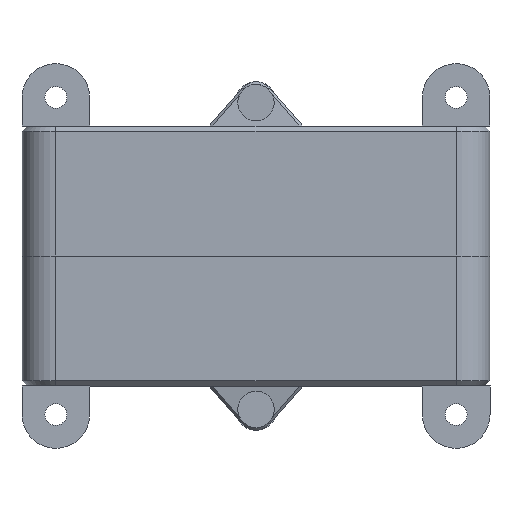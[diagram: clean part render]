
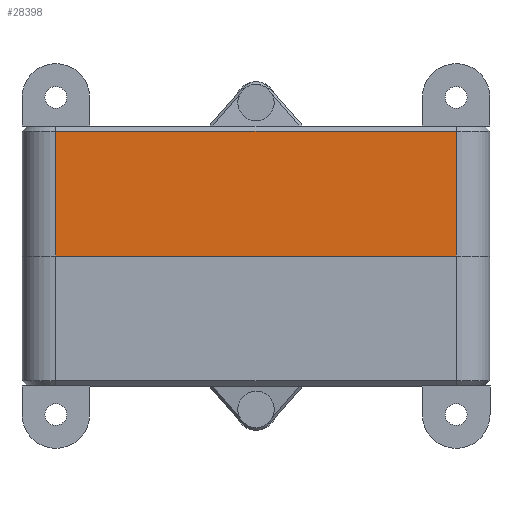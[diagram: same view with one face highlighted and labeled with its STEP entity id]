
A CAD part, front view. The second image highlights one B-rep face of the part: STEP entity #28398.
In plain terms, the highlighted planar face has unit normal (0, -1, 0).
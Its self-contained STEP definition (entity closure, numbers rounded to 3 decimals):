
#1580=PLANE('',#30194);
#2759=FACE_OUTER_BOUND('',#4370,.T.);
#4370=EDGE_LOOP('',(#22610,#22611,#22612,#22613));
#5502=LINE('',#37691,#8501);
#5544=LINE('',#37802,#8543);
#5672=LINE('',#38299,#8671);
#5673=LINE('',#38301,#8672);
#8501=VECTOR('',#31390,10.);
#8543=VECTOR('',#31474,10.);
#8671=VECTOR('',#31694,10.);
#8672=VECTOR('',#31697,10.);
#12337=VERTEX_POINT('',#37688);
#12338=VERTEX_POINT('',#37690);
#12384=VERTEX_POINT('',#37794);
#12386=VERTEX_POINT('',#37800);
#15131=EDGE_CURVE('',#12337,#12338,#5502,.T.);
#15187=EDGE_CURVE('',#12386,#12384,#5544,.T.);
#15354=EDGE_CURVE('',#12338,#12386,#5672,.T.);
#15355=EDGE_CURVE('',#12384,#12337,#5673,.T.);
#22610=ORIENTED_EDGE('',*,*,#15187,.F.);
#22611=ORIENTED_EDGE('',*,*,#15354,.F.);
#22612=ORIENTED_EDGE('',*,*,#15131,.F.);
#22613=ORIENTED_EDGE('',*,*,#15355,.F.);
#28398=ADVANCED_FACE('',(#2759),#1580,.T.);
#30194=AXIS2_PLACEMENT_3D('',#42978,#33582,#33583);
#31390=DIRECTION('',(1.,0.,0.));
#31474=DIRECTION('',(-1.,0.,0.));
#31694=DIRECTION('',(0.,0.,-1.));
#31697=DIRECTION('',(0.,0.,1.));
#33582=DIRECTION('center_axis',(0.,-1.,0.));
#33583=DIRECTION('ref_axis',(1.,0.,0.));
#37688=CARTESIAN_POINT('',(-38.5,0.,25.));
#37690=CARTESIAN_POINT('',(38.5,0.,25.));
#37691=CARTESIAN_POINT('',(-45.,0.,25.));
#37794=CARTESIAN_POINT('',(-38.5,0.,1.));
#37800=CARTESIAN_POINT('',(38.5,0.,1.));
#37802=CARTESIAN_POINT('',(-22.5,0.,1.));
#38299=CARTESIAN_POINT('',(38.5,0.,0.));
#38301=CARTESIAN_POINT('',(-38.5,0.,0.));
#42978=CARTESIAN_POINT('Origin',(-45.,0.,
0.));
